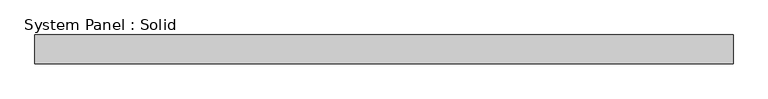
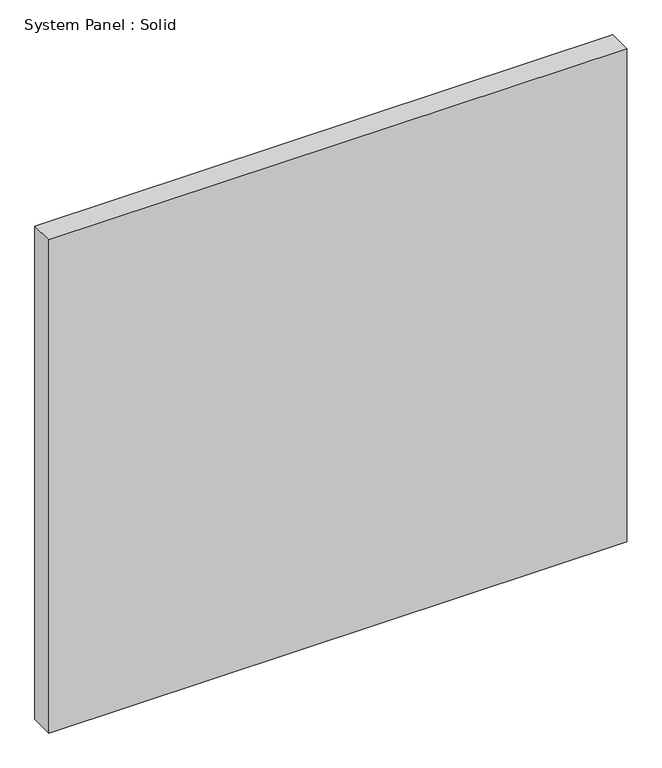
"""IFC4 building model written with IfcOpenShell, lengths in millimetres: plate geometry, System Panel : Solid."""

import ifcopenshell
import ifcopenshell.guid

model = None  # the IFC model being written
_history = None  # IfcOwnerHistory: only IFC2X3 demands one
_inside = {}  # id of a spatial element -> (the spatial element, [elements in it])
_under = {}  # id of a project, library or spatial element -> (it, [spatial elements below it])
_declared = {}  # id of a project -> (the project, [libraries it declares])
_typed = {}  # id of a type object -> (the type object, [elements of that type])
_made_of = {}  # id of a material, layer set ... -> (it, [elements and type objects made of it])


def new_model(schema):
    """Start an empty IFC model of exactly this schema.

    Asked for "IFC4X3", IfcOpenShell would pick the latest addendum, in which some entities
    have other attributes; the version numbers below select the first issue.
    IFC2X3 requires an IfcOwnerHistory on every rooted entity: one is made here for all.
    """
    global model, _history
    if schema == "IFC4X3":
        model = ifcopenshell.file(schema_version=(4, 3, 0, 0))
    else:
        model = ifcopenshell.file(schema=schema)
    _inside.clear()
    _under.clear()
    _declared.clear()
    _typed.clear()
    _made_of.clear()
    _history = None
    if model.schema == "IFC2X3":
        org = make("IfcOrganization", Name="unknown")
        user = make(
            "IfcPersonAndOrganization",
            ThePerson=make("IfcPerson", FamilyName="unknown"),
            TheOrganization=org,
        )
        app = make(
            "IfcApplication",
            ApplicationDeveloper=org,
            Version="unknown",
            ApplicationFullName="unknown",
            ApplicationIdentifier="unknown",
        )
        _history = make(
            "IfcOwnerHistory",
            OwningUser=user,
            OwningApplication=app,
            ChangeAction="ADDED",
            CreationDate=0,
        )
    return model


def make(cls, **values):
    """One entity of the class cls with the attributes given. An attribute that is None is left unset."""
    return model.create_entity(
        cls, **{name: value for name, value in values.items() if value is not None}
    )


def rooted(cls, **values):
    """An entity with a GlobalId (a new one), such as an element, a storey or a relation."""
    return make(cls, GlobalId=ifcopenshell.guid.new(), OwnerHistory=_history, **values)


def si_unit(unit_type, name, prefix=None):
    """IfcSIUnit, for example si_unit("LENGTHUNIT", "METRE", prefix="MILLI")."""
    return make("IfcSIUnit", UnitType=unit_type, Prefix=prefix, Name=name)


def assignment(units):
    """IfcUnitAssignment: the units of a project."""
    return None if units is None else make("IfcUnitAssignment", Units=units)


def point(xyz):
    """IfcCartesianPoint."""
    return None if xyz is None else make("IfcCartesianPoint", Coordinates=xyz)


def direction(xyz):
    """IfcDirection."""
    return None if xyz is None else make("IfcDirection", DirectionRatios=xyz)


def frame(location, z_axis=None, x_axis=None):
    """IfcAxis2Placement3D, a coordinate frame: its origin and axes. An axis left out is left unset."""
    return make(
        "IfcAxis2Placement3D",
        Location=point(location),
        Axis=direction(z_axis),
        RefDirection=direction(x_axis),
    )


def origin():
    """The frame at (0, 0, 0) with its axes left unset."""
    return frame((0.0, 0.0, 0.0))


def origin_with_axes():
    """The frame at (0, 0, 0) with the z axis (0, 0, 1) and the x axis (1, 0, 0) written out."""
    return frame((0.0, 0.0, 0.0), z_axis=(0.0, 0.0, 1.0), x_axis=(1.0, 0.0, 0.0))


def place(relative_to, where):
    """IfcLocalPlacement: puts the frame where relative to a parent placement (None: the world)."""
    return make(
        "IfcLocalPlacement", PlacementRelTo=relative_to, RelativePlacement=where
    )


def context(
    kind, dimensions, precision=None, world=None, true_north=None, identifier=None
):
    """IfcGeometricRepresentationContext, for example the 3D "Model" context."""
    return make(
        "IfcGeometricRepresentationContext",
        ContextIdentifier=identifier,
        ContextType=kind,
        CoordinateSpaceDimension=dimensions,
        Precision=precision,
        WorldCoordinateSystem=world,
        TrueNorth=true_north,
    )


def project(units=None, contexts=None):
    """IfcProject with its units and contexts."""
    return rooted(
        "IfcProject",
        Name="project",
        RepresentationContexts=contexts,
        UnitsInContext=assignment(units),
    )


def spatial(cls, under=None, at=None, **own):
    """A site, building, storey or space (cls), placed at a placement, below another one or the project."""
    s = rooted(cls, ObjectPlacement=at, **own)
    if under is not None:
        _under.setdefault(under.id(), (under, []))[1].append(s)
    return s


def polyline(points):
    """IfcPolyline through the points."""
    return make("IfcPolyline", Points=[point(p) for p in points])


def outline(outer, holes=None, kind="AREA"):
    """IfcArbitraryClosedProfileDef: a profile drawn as a closed curve; with holes, ...WithVoids."""
    if holes is None:
        return make("IfcArbitraryClosedProfileDef", ProfileType=kind, OuterCurve=outer)
    return make(
        "IfcArbitraryProfileDefWithVoids",
        ProfileType=kind,
        OuterCurve=outer,
        InnerCurves=holes,
    )


def extrude(swept, where, along, depth):
    """IfcExtrudedAreaSolid: the profile swept, set in the frame where, extruded along a direction by depth."""
    return make(
        "IfcExtrudedAreaSolid",
        SweptArea=swept,
        Position=where,
        ExtrudedDirection=direction(along),
        Depth=depth,
    )


def shape(context_of_items, identifier, shape_type, items):
    """IfcShapeRepresentation: the items that make up one representation, for example the "Body"."""
    return make(
        "IfcShapeRepresentation",
        ContextOfItems=context_of_items,
        RepresentationIdentifier=identifier,
        RepresentationType=shape_type,
        Items=items,
    )


def source(mapping_origin, context_of_items, identifier, shape_type, items):
    """IfcRepresentationMap: a shape defined once, which mapped items show again and again."""
    return make(
        "IfcRepresentationMap",
        MappingOrigin=mapping_origin,
        MappedRepresentation=shape(context_of_items, identifier, shape_type, items),
    )


def transform(
    local_origin,
    x_axis=None,
    y_axis=None,
    z_axis=None,
    scale=None,
    scale2=None,
    scale3=None,
    uniform=True,
):
    """IfcCartesianTransformationOperator3D, or its non-uniform kind. x_axis, y_axis, z_axis: its Axis1, 2, 3."""
    if uniform:
        return make(
            "IfcCartesianTransformationOperator3D",
            Axis1=direction(x_axis),
            Axis2=direction(y_axis),
            LocalOrigin=point(local_origin),
            Scale=scale,
            Axis3=direction(z_axis),
        )
    return make(
        "IfcCartesianTransformationOperator3DnonUniform",
        Axis1=direction(x_axis),
        Axis2=direction(y_axis),
        LocalOrigin=point(local_origin),
        Scale=scale,
        Axis3=direction(z_axis),
        Scale2=scale2,
        Scale3=scale3,
    )


def mapped(mapping_source, mapping_target):
    """IfcMappedItem: shows the shape of a source again, moved by a transform."""
    return make(
        "IfcMappedItem", MappingSource=mapping_source, MappingTarget=mapping_target
    )


def made_of(thing, what):
    """Note that an element or type object is made of a material, layer set ...; save() writes the relation."""
    if what is not None:
        _made_of.setdefault(what.id(), (what, []))[1].append(thing)
    return thing


def element(
    cls,
    number,
    at=None,
    inside=None,
    cuts=None,
    type_object=None,
    material=None,
    context=None,
    identifier="Body",
    shape_type=None,
    held_by="IfcProductDefinitionShape",
    body=None,
    shapes=None,
    **own,
):
    """One element of the class cls, such as IfcWall. Its Tag is "e" and its number.

    at: its placement. inside: the storey or other place that contains it. cuts: it is an
    opening in that element (IfcRelVoidsElement). A single representation is given by context,
    identifier, shape_type and body (its items); several are given by shapes. held_by: the class
    of the entity that holds the representations. save() writes the other relations.
    """
    e = rooted(cls, Tag="e%d" % number, ObjectPlacement=at, **own)
    if body is not None:
        shapes = [shape(context, identifier, shape_type, body)]
    if shapes is not None:
        e.Representation = make(held_by, Representations=shapes)
    if inside is not None:
        _inside.setdefault(inside.id(), (inside, []))[1].append(e)
    if cuts is not None:
        rooted(
            "IfcRelVoidsElement", RelatingBuildingElement=cuts, RelatedOpeningElement=e
        )
    if type_object is not None:
        _typed.setdefault(type_object.id(), (type_object, []))[1].append(e)
    return made_of(e, material)


def aggregate(whole, parts):
    """IfcRelAggregates: a whole, such as a stair, and the parts it consists of."""
    return rooted("IfcRelAggregates", RelatingObject=whole, RelatedObjects=parts)


def save(model, path):
    """Write the relations noted so far, then the file.

    IfcRelAggregates (storeys below a building ...), IfcRelContainedInSpatialStructure (elements
    in a storey), IfcRelDefinesByType, IfcRelAssociatesMaterial and IfcRelDeclares: one each for
    every whole, place, type object, material and project.
    """
    for whole, parts in _under.values():
        aggregate(whole, parts)
    for where, things in _inside.values():
        rooted(
            "IfcRelContainedInSpatialStructure",
            RelatedElements=things,
            RelatingStructure=where,
        )
    for kind, things in _typed.values():
        rooted("IfcRelDefinesByType", RelatedObjects=things, RelatingType=kind)
    for what, things in _made_of.values():
        rooted("IfcRelAssociatesMaterial", RelatedObjects=things, RelatingMaterial=what)
    for by, libraries in _declared.values():
        rooted("IfcRelDeclares", RelatingContext=by, RelatedDefinitions=libraries)
    model.write(path)


def system_panel_solid_0b170172(model_context):
    return source(origin(), model_context, "Body", "SweptSolid", [
        extrude(outline(polyline([(726.123828, -49.5), (-726.123828, -49.5), (-726.123828, 10.5), (726.123828, 10.5), (726.123828, -49.5)])), origin_with_axes(), (0.0, 0.0, 1.0), 1310.0),
    ])


if __name__ == "__main__":
    model = new_model("IFC4")
    model_context = context("Model", 3, world=origin())
    ifc_project = project(units=[si_unit("LENGTHUNIT", "METRE", prefix="MILLI")], contexts=[model_context])
    site = spatial("IfcSite", under=ifc_project)
    building = spatial("IfcBuilding", under=site)
    placement = place(None, origin())
    system_panel_solid_shape = system_panel_solid_0b170172(model_context)
    element("IfcPlate", 1, ObjectType="System Panel : Solid", at=placement, inside=building, context=model_context, shape_type="MappedRepresentation", body=[
        mapped(system_panel_solid_shape, transform((0.0, 0.0, 0.0), x_axis=(1.0, 0.0, 0.0), y_axis=(0.0, 1.0, 0.0), z_axis=(0.0, 0.0, 1.0))),
    ])
    save(model, "model.ifc")
